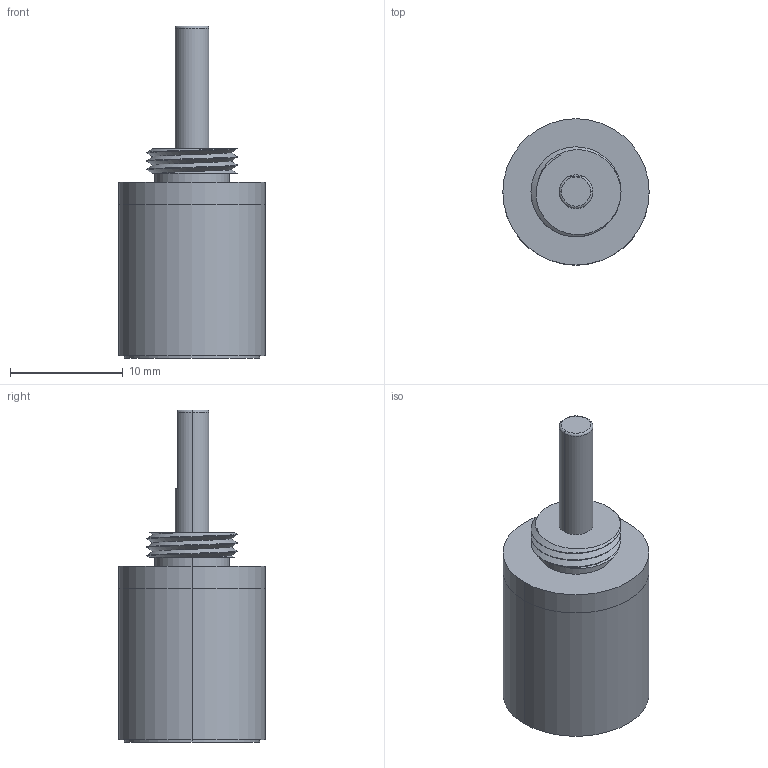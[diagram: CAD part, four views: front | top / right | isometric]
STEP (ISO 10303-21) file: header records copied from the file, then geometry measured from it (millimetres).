
FILE_DESCRIPTION (( 'STEP AP203' ), '1' );
FILE_NAME ('IG-13(II)-2stage.STEP', '2023-03-27T02:22:38', ( '' ), ( '' ), 'SwSTEP 2.0', 'SolidWorks 2019', '' );
FILE_SCHEMA (( 'CONFIG_CONTROL_DESIGN' ));
Length unit declared in the file: millimetre
Products named in the file (1): IG-13(II)-2stage
Bounding box: 13 x 13 x 29.5 mm (x, y, z)
Volume: 2484.4 mm3; surface area: 1529 mm2
Topology: 2 solids, 2 shells, 40 faces, 84 edges, 55 vertices
Faces by surface type: cylinder 22, plane 13, torus 3, bspline 2
Entity records: 1645 total; most frequent: CARTESIAN_POINT 724, DIRECTION 184, ORIENTED_EDGE 168, EDGE_CURVE 84, AXIS2_PLACEMENT_3D 80, VERTEX_POINT 55, EDGE_LOOP 47, CIRCLE 41
